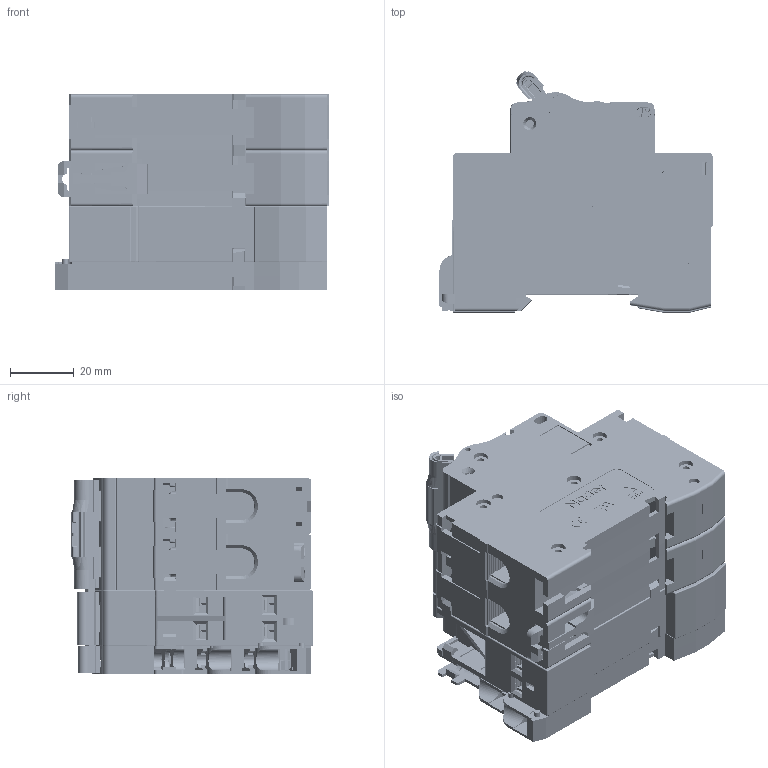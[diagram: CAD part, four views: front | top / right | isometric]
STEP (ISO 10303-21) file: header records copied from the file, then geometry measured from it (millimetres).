
FILE_DESCRIPTION (( 'STEP AP203' ), '1' );
FILE_NAME ('2+MX+0F2+0F2 3D耀倰芞.STEP', '2024-07-15T08:09:47', ( '' ), ( '' ), 'SwSTEP 2.0', 'SolidWorks 2018', '' );
FILE_SCHEMA (( 'CONFIG_CONTROL_DESIGN' ));
Length unit declared in the file: millimetre
Products named in the file (43): 8LD.612.0070.STEP; ________.STEP; MX+OF2.STEP; 5LD.574.103.STEP; 1p-____-1.STEP; 8LD.905.0001.STEP; 8LD.233.125.STEP; 2+MX+0F2+0F2 3Dﾄ｣ﾐﾍﾍｼ; 1p-____.STEP; 8LD.315.0312.STEP; 5LD.574.0017.STEP; 8LD.024.0466.STEP; 8LD.253.129.STEP; ____.STEP; 8LD.516.135.STEP; 8LD.143.115.STEP; 8LD.730.0071.STEP; 8LD.516.163.STEP; 8LD.253.171.STEP; 8LD.024.137.STEP; 8LD.615.1011.STEP; 8LD.206.103_____________.STEP; OF2 耀倰芞; 8LD.315.141.STEP; 8LD.441.0026.STEP; 8LD.516.0029.STEP; 8LD.315.140.STEP; 8LD.039.100.STEP; 8LD.235.112.STEP; 8LD.550.200.STEP; 8LD.557.0125.STEP; 8LD.516.164.STEP; 8LD.281.166.STEP; NDB2-63 2p.STEP; 8LD.967.1026.1.STEP; 8LD.585.0100.STEP; 8LD.907.115.STEP; 8LD.315.0311.STEP; 8LD.233.155.STEP; 8LD.253.0222.STEP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
Assembly tree (66 placements, depth 5):
  2+MX+0F2+0F2 3Dﾄ｣ﾐﾍﾍｼ
    NDB2-63 2p.STEP
      1p-____.STEP
        5LD.574.103.STEP  x2
          8LD.516.135.STEP
          8LD.907.115.STEP
        8LD.024.137.STEP
        8LD.253.129.STEP
        8LD.315.140.STEP
        8LD.315.141.STEP  x2
        8LD.516.163.STEP
        8LD.516.164.STEP
        8LD.039.100.STEP
      1p-____-1.STEP
        5LD.574.103.STEP  x2
          8LD.516.135.STEP
          8LD.907.115.STEP
        8LD.024.137.STEP
        8LD.253.129.STEP
        8LD.143.115.STEP
        8LD.315.140.STEP
        8LD.315.141.STEP  x2
        8LD.516.163.STEP
        8LD.516.164.STEP
        8LD.039.100.STEP
      8LD.253.171.STEP
    OF2 耀倰芞
    MX+OF2
      MX+OF2.STEP
        5LD.574.0017.STEP  x4
          8LD.516.0029.STEP
          8LD.905.0001.STEP
          8LD.585.0100.STEP
        8LD.024.0466.STEP
        8LD.315.0311.STEP
        8LD.315.0312.STEP
        8LD.233.155.STEP
        8LD.253.0222.STEP
        8LD.281.166.STEP
        8LD.441.0026.STEP
        8LD.550.200.STEP  x3
        8LD.233.125.STEP
        8LD.557.0125.STEP  x2
        8LD.206.103_____________.STEP  x2
        8LD.281.169.STEP
        8LD.967.1026.1.STEP  x6
        8LD.730.0071.STEP
        8LD.615.1011.STEP
        8LD.612.0070.STEP
        8LD.235.112.STEP
        ________.STEP
        8LD.270.0027.STEP
        ____.STEP
Bounding box: 85.85 x 75.83 x 61.4 mm (x, y, z)
Volume: 185233.7 mm3; surface area: 169035.3 mm2
Topology: 73 solids, 114 shells, 10741 faces, 30656 edges, 20280 vertices
Faces by surface type: plane 6470, cylinder 3020, cone 679, bspline 400, torus 150, sphere 22
Entity records: 255733 total; most frequent: CARTESIAN_POINT 78115, ORIENTED_EDGE 37015, DIRECTION 34161, EDGE_CURVE 19092, VECTOR 13201, LINE 13201, VERTEX_POINT 12729, AXIS2_PLACEMENT_3D 10480
